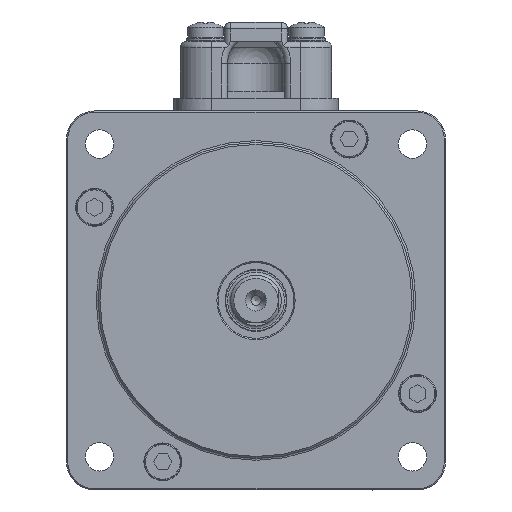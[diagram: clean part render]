
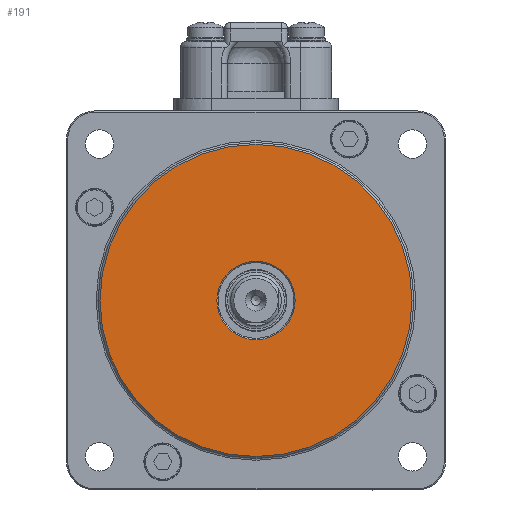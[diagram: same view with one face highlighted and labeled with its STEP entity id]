
A CAD part, front view. The second image highlights one B-rep face of the part: STEP entity #191.
In plain terms, the highlighted planar face has unit normal (0, -1, 0).
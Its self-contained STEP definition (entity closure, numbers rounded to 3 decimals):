
#191=ADVANCED_FACE('',(#1802,#1803),#1804,.T.);
#1802=FACE_BOUND('',#4981,.T.);
#1803=FACE_OUTER_BOUND('',#4982,.T.);
#1804=PLANE('',#4983);
#4981=EDGE_LOOP('',(#10447));
#4982=EDGE_LOOP('',(#10448));
#4983=AXIS2_PLACEMENT_3D('',#10449,#10450,#10451);
#10447=ORIENTED_EDGE('',*,*,#21572,.T.);
#10448=ORIENTED_EDGE('',*,*,#21600,.T.);
#10449=CARTESIAN_POINT('',(-25.,-10.5,0.));
#10450=DIRECTION('',(0.,-1.0,0.));
#10451=DIRECTION('',(0.0,0.,-1.0));
#21572=EDGE_CURVE('',#25376,#25376,#25377,.T.);
#21600=EDGE_CURVE('',#25415,#25415,#25416,.T.);
#25376=VERTEX_POINT('',#31201);
#25377=CIRCLE('',#31202,6.2);
#25415=VERTEX_POINT('',#31279);
#25416=CIRCLE('',#31280,24.7);
#31201=CARTESIAN_POINT('',(-6.2,-10.5,0.));
#31202=AXIS2_PLACEMENT_3D('',#40778,#40779,#40780);
#31279=CARTESIAN_POINT('',(-24.7,-10.5,0.));
#31280=AXIS2_PLACEMENT_3D('',#40829,#40830,#40831);
#40778=CARTESIAN_POINT('',(0.,-10.5,0.));
#40779=DIRECTION('',(0.,1.0,0.));
#40780=DIRECTION('',(-1.0,0.,0.));
#40829=CARTESIAN_POINT('',(0.,-10.5,0.));
#40830=DIRECTION('',(0.,-1.0,0.));
#40831=DIRECTION('',(-1.0,0.,0.));
